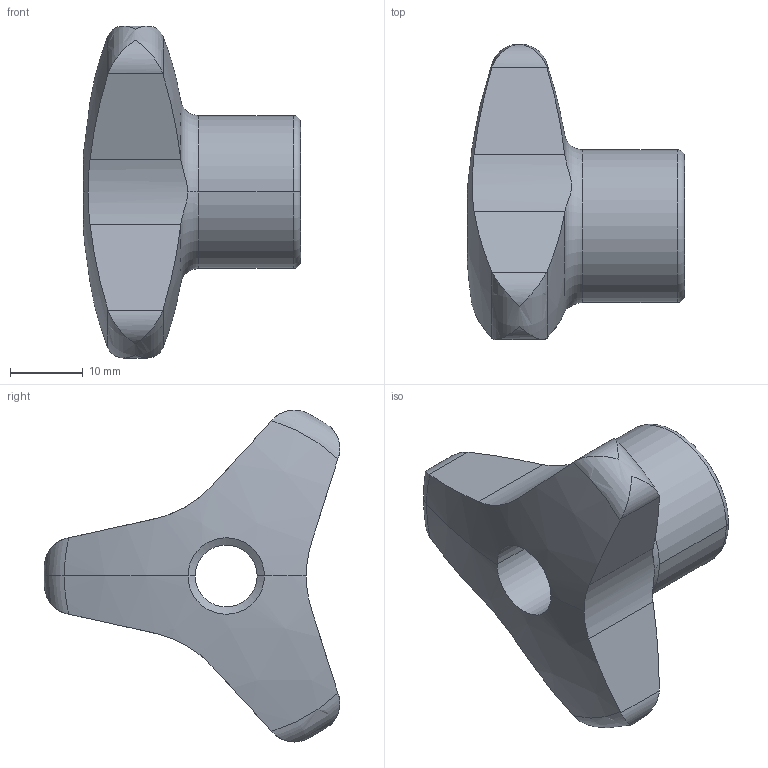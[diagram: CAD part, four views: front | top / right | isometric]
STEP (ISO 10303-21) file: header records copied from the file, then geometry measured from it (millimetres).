
FILE_DESCRIPTION (( 'STEP AP214' ), '1' );
FILE_NAME ('5345-50-M10-D.step', '2019-06-13T08:49:00', ( 'user' ), ( '' ), 'SwSTEP 2.0', 'SolidWorks 2019', '' );
FILE_SCHEMA (( 'AUTOMOTIVE_DESIGN' ));
Length unit declared in the file: millimetre
Products named in the file (1): 5345-50-M10-D
Bounding box: 29.81 x 40.58 x 45.59 mm (x, y, z)
Volume: 14215.9 mm3; surface area: 4973 mm2
Topology: 1 solids, 1 shells, 39 faces, 107 edges, 69 vertices
Faces by surface type: cylinder 16, torus 8, plane 7, sphere 6, cone 2
Entity records: 1557 total; most frequent: CARTESIAN_POINT 542, ORIENTED_EDGE 214, DIRECTION 193, EDGE_CURVE 107, AXIS2_PLACEMENT_3D 86, VERTEX_POINT 69, CIRCLE 46, B_SPLINE_CURVE_WITH_KNOTS 40
